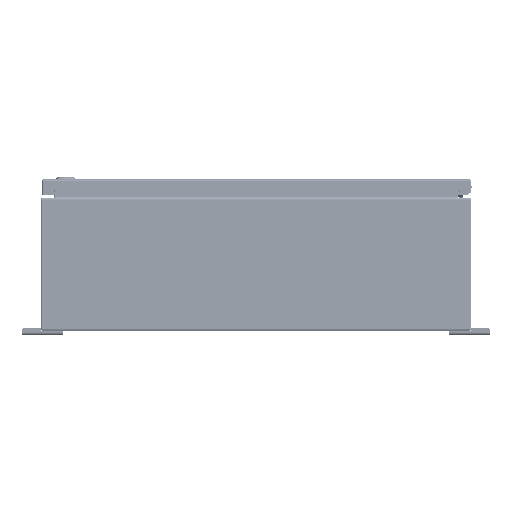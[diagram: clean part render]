
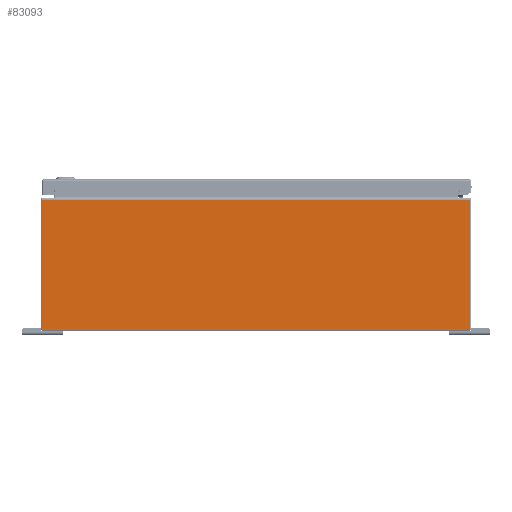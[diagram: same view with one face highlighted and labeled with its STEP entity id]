
A CAD part, left-side view. The second image highlights one B-rep face of the part: STEP entity #83093.
In plain terms, the highlighted planar face has unit normal (-1, 0, 0).
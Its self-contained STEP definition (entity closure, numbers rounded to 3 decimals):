
#4981=PLANE('',#89219);
#7080=LINE('',#118246,#13335);
#7081=LINE('',#118250,#13336);
#7082=LINE('',#118252,#13337);
#7083=LINE('',#118254,#13338);
#7084=LINE('',#118256,#13339);
#7085=LINE('',#118257,#13340);
#13335=VECTOR('',#96911,0.394);
#13336=VECTOR('',#96916,0.394);
#13337=VECTOR('',#96917,0.394);
#13338=VECTOR('',#96918,0.394);
#13339=VECTOR('',#96919,0.394);
#13340=VECTOR('',#96920,0.394);
#20868=FACE_OUTER_BOUND('',#25915,.T.);
#25915=EDGE_LOOP('',(#56151,#56152,#56153,#56154,#56155,#56156));
#34722=VERTEX_POINT('',#118228);
#34729=VERTEX_POINT('',#118245);
#34730=VERTEX_POINT('',#118249);
#34731=VERTEX_POINT('',#118251);
#34732=VERTEX_POINT('',#118253);
#34733=VERTEX_POINT('',#118255);
#43042=EDGE_CURVE('',#34722,#34729,#7080,.T.);
#43044=EDGE_CURVE('',#34730,#34722,#7081,.T.);
#43045=EDGE_CURVE('',#34730,#34731,#7082,.T.);
#43046=EDGE_CURVE('',#34732,#34731,#7083,.T.);
#43047=EDGE_CURVE('',#34733,#34732,#7084,.T.);
#43048=EDGE_CURVE('',#34733,#34729,#7085,.T.);
#56151=ORIENTED_EDGE('',*,*,#43044,.F.);
#56152=ORIENTED_EDGE('',*,*,#43045,.T.);
#56153=ORIENTED_EDGE('',*,*,#43046,.F.);
#56154=ORIENTED_EDGE('',*,*,#43047,.F.);
#56155=ORIENTED_EDGE('',*,*,#43048,.T.);
#56156=ORIENTED_EDGE('',*,*,#43042,.F.);
#83093=ADVANCED_FACE('',(#20868),#4981,.F.);
#89219=AXIS2_PLACEMENT_3D('',#118248,#96914,#96915);
#96911=DIRECTION('',(0.,0.,-1.));
#96914=DIRECTION('center_axis',(1.,0.,0.));
#96915=DIRECTION('ref_axis',(0.,0.,-1.));
#96916=DIRECTION('',(0.,-1.,0.));
#96917=DIRECTION('',(0.,1.,0.));
#96918=DIRECTION('',(0.,-1.,0.));
#96919=DIRECTION('',(0.,0.,1.));
#96920=DIRECTION('',(0.,-1.,0.));
#118228=CARTESIAN_POINT('',(-24.,-12.901,7.901));
#118245=CARTESIAN_POINT('',(-24.,-12.901,0.099));
#118246=CARTESIAN_POINT('',(-24.,-12.901,4.));
#118248=CARTESIAN_POINT('Origin',(-24.,0.,4.));
#118249=CARTESIAN_POINT('',(-24.,-12.126,7.901));
#118250=CARTESIAN_POINT('',(-24.,-6.475,7.901));
#118251=CARTESIAN_POINT('',(-24.,12.126,7.901));
#118252=CARTESIAN_POINT('',(-24.,6.455,7.901));
#118253=CARTESIAN_POINT('',(-24.,12.901,7.901));
#118254=CARTESIAN_POINT('',(-24.,-6.475,7.901));
#118255=CARTESIAN_POINT('',(-24.,12.901,0.099));
#118256=CARTESIAN_POINT('',(-24.,12.901,4.));
#118257=CARTESIAN_POINT('',(-24.,6.5,0.099));
